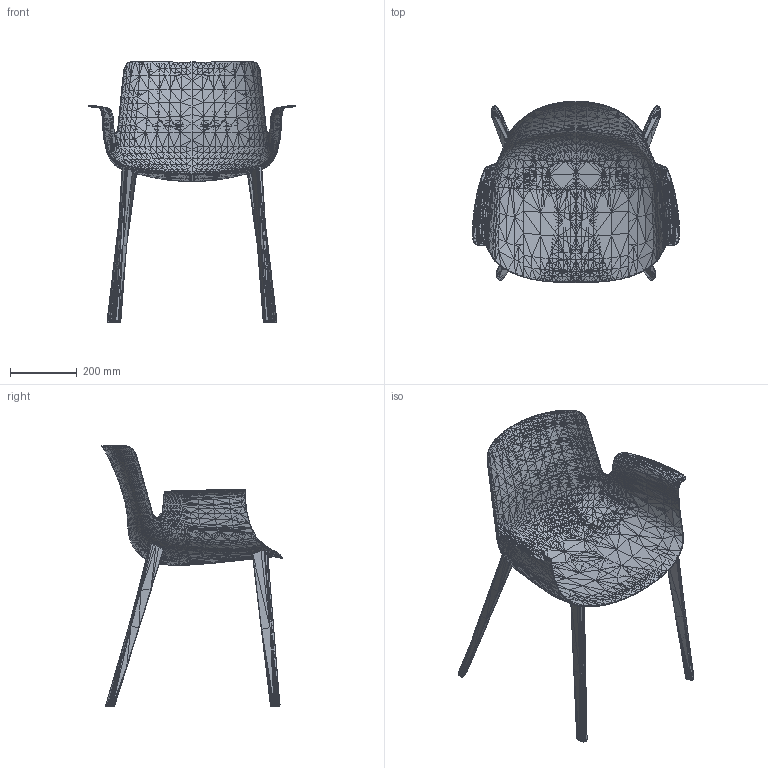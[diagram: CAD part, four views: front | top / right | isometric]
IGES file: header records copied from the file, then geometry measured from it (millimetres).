
Global section: file name: E:\Modelli 3D Kartell_3dd\Prodotti Revisione 1_3dd\da controllare_3dd\5802\Piuma_3d_Piero Lissoni_Kartell.igs; native system: Rhinoceros ( Mar 10 2014 ); preprocessor: Trout Lake IGES 012 Mar 10 2014; date: 180215.235838; units: millimetre
Bounding box: 618.92 x 542.51 x 780.36 mm (x, y, z)
Surface area: 1191446.8 mm2 (no closed solid volume)
Topology: 0 solids, 0 shells, 23517 faces, 70551 edges, 70551 vertices
Faces by surface type: bspline 23517
